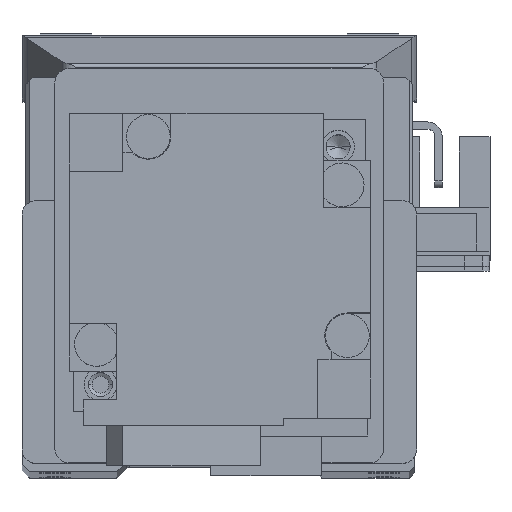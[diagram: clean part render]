
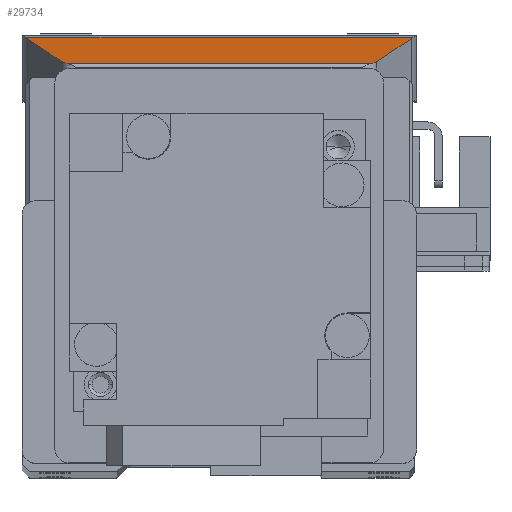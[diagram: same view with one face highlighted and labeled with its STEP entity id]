
A CAD part, top view. The second image highlights one B-rep face of the part: STEP entity #29734.
In plain terms, the highlighted planar face has unit normal (0, 0.966, 0.258).
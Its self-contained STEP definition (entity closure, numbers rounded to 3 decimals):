
#1167 = AXIS2_PLACEMENT_3D ( 'NONE', #23467, #18293, #12698 ) ;
#1318 =( BOUNDED_CURVE ( )  B_SPLINE_CURVE ( 3, ( #14234, #31327, #34267, #20086 ),
 .UNSPECIFIED., .F., .F. ) 
 B_SPLINE_CURVE_WITH_KNOTS ( ( 4, 4 ),
 ( 1.896, 1.951 ),
 .UNSPECIFIED. ) 
 CURVE ( )  GEOMETRIC_REPRESENTATION_ITEM ( )  RATIONAL_B_SPLINE_CURVE ( ( 1., 1., 1., 1. ) ) 
 REPRESENTATION_ITEM ( '' )  );
#1360 = EDGE_LOOP ( 'NONE', ( #5862, #13045, #23523, #15286, #36384, #8141, #10954, #34881 ) ) ;
#1645 = VECTOR ( 'NONE', #2784, 1000. ) ;
#2219 = VERTEX_POINT ( 'NONE', #22549 ) ;
#2784 = DIRECTION ( 'NONE',  ( -1., 0., 0. ) ) ;
#4014 = EDGE_CURVE ( 'NONE', #15419, #26471, #14626, .T. ) ;
#4704 = LINE ( 'NONE', #28274, #1645 ) ;
#5862 = ORIENTED_EDGE ( 'NONE', *, *, #30218, .T. ) ;
#6773 = VERTEX_POINT ( 'NONE', #14344 ) ;
#7408 = CARTESIAN_POINT ( 'NONE',  ( -20.806, 46.299, 57.629 ) ) ;
#7662 = EDGE_CURVE ( 'NONE', #16746, #2219, #17090, .T. ) ;
#8141 = ORIENTED_EDGE ( 'NONE', *, *, #7662, .T. ) ;
#10157 = CARTESIAN_POINT ( 'NONE',  ( -21.121, 46.359, 57.405 ) ) ;
#10439 = EDGE_CURVE ( 'NONE', #16293, #6773, #4704, .T. ) ;
#10954 = ORIENTED_EDGE ( 'NONE', *, *, #19034, .F. ) ;
#11048 = CARTESIAN_POINT ( 'NONE',  ( 26.477, 49.862, 44.266 ) ) ;
#11955 = PLANE ( 'NONE',  #1167 ) ;
#12419 = CARTESIAN_POINT ( 'NONE',  ( 20.806, 46.299, 57.629 ) ) ;
#12698 = DIRECTION ( 'NONE',  ( 0., 0.258, -0.966 ) ) ;
#13045 = ORIENTED_EDGE ( 'NONE', *, *, #30026, .T. ) ;
#13738 = DIRECTION ( 'NONE',  ( 0.361, -0.24, 0.901 ) ) ;
#14234 = CARTESIAN_POINT ( 'NONE',  ( -26.477, 49.862, 44.266 ) ) ;
#14344 = CARTESIAN_POINT ( 'NONE',  ( -26.477, 49.862, 44.266 ) ) ;
#14401 = CARTESIAN_POINT ( 'NONE',  ( 21.909, 46.806, 55.728 ) ) ;
#14626 =( BOUNDED_CURVE ( )  B_SPLINE_CURVE ( 3, ( #19864, #36882, #16732, #23024 ),
 .UNSPECIFIED., .F., .F. ) 
 B_SPLINE_CURVE_WITH_KNOTS ( ( 4, 4 ),
 ( 3.761, 4.332 ),
 .UNSPECIFIED. ) 
 CURVE ( )  GEOMETRIC_REPRESENTATION_ITEM ( )  RATIONAL_B_SPLINE_CURVE ( ( 1., 0.973, 0.973, 1. ) ) 
 REPRESENTATION_ITEM ( '' )  );
#15286 = ORIENTED_EDGE ( 'NONE', *, *, #23031, .T. ) ;
#15419 = VERTEX_POINT ( 'NONE', #12419 ) ;
#15424 = FACE_OUTER_BOUND ( 'NONE', #1360, .T. ) ;
#16293 = VERTEX_POINT ( 'NONE', #28356 ) ;
#16534 = CARTESIAN_POINT ( 'NONE',  ( 26.354, 49.769, 44.616 ) ) ;
#16648 = CARTESIAN_POINT ( 'NONE',  ( 26.418, 49.815, 44.442 ) ) ;
#16732 = CARTESIAN_POINT ( 'NONE',  ( 21.36, 46.44, 57.101 ) ) ;
#16746 = VERTEX_POINT ( 'NONE', #27833 ) ;
#17090 =( BOUNDED_CURVE ( )  B_SPLINE_CURVE ( 3, ( #27290, #18392, #10157, #7408 ),
 .UNSPECIFIED., .F., .F. ) 
 B_SPLINE_CURVE_WITH_KNOTS ( ( 4, 4 ),
 ( 1.951, 2.523 ),
 .UNSPECIFIED. ) 
 CURVE ( )  GEOMETRIC_REPRESENTATION_ITEM ( )  RATIONAL_B_SPLINE_CURVE ( ( 1., 0.973, 0.973, 1. ) ) 
 REPRESENTATION_ITEM ( '' )  );
#18241 = CARTESIAN_POINT ( 'NONE',  ( -26.285, 49.723, 44.788 ) ) ;
#18293 = DIRECTION ( 'NONE',  ( 0., -0.966, -0.258 ) ) ;
#18392 = CARTESIAN_POINT ( 'NONE',  ( -21.36, 46.44, 57.101 ) ) ;
#19034 = EDGE_CURVE ( 'NONE', #15419, #2219, #36178, .T. ) ;
#19864 = CARTESIAN_POINT ( 'NONE',  ( 20.806, 46.299, 57.629 ) ) ;
#19935 = CARTESIAN_POINT ( 'NONE',  ( 27., 46.299, 57.629 ) ) ;
#20086 = CARTESIAN_POINT ( 'NONE',  ( -26.285, 49.723, 44.788 ) ) ;
#21803 = CARTESIAN_POINT ( 'NONE',  ( 21.503, 46.535, 56.743 ) ) ;
#22065 = VECTOR ( 'NONE', #22818, 1000. ) ;
#22480 = CARTESIAN_POINT ( 'NONE',  ( -14.891, 42.127, 73.273 ) ) ;
#22549 = CARTESIAN_POINT ( 'NONE',  ( -20.806, 46.299, 57.629 ) ) ;
#22818 = DIRECTION ( 'NONE',  ( 0.361, 0.24, -0.901 ) ) ;
#23024 = CARTESIAN_POINT ( 'NONE',  ( 21.503, 46.535, 56.743 ) ) ;
#23026 =( BOUNDED_CURVE ( )  B_SPLINE_CURVE ( 3, ( #33379, #16534, #16648, #11048 ),
 .UNSPECIFIED., .F., .F. ) 
 B_SPLINE_CURVE_WITH_KNOTS ( ( 4, 4 ),
 ( 4.332, 4.388 ),
 .UNSPECIFIED. ) 
 CURVE ( )  GEOMETRIC_REPRESENTATION_ITEM ( )  RATIONAL_B_SPLINE_CURVE ( ( 1., 1., 1., 1. ) ) 
 REPRESENTATION_ITEM ( '' )  );
#23031 = EDGE_CURVE ( 'NONE', #6773, #26936, #1318, .T. ) ;
#23467 = CARTESIAN_POINT ( 'NONE',  ( 27., 46.299, 57.629 ) ) ;
#23523 = ORIENTED_EDGE ( 'NONE', *, *, #10439, .T. ) ;
#23738 = LINE ( 'NONE', #22480, #33492 ) ;
#25722 = DIRECTION ( 'NONE',  ( -1., 0., 0. ) ) ;
#26471 = VERTEX_POINT ( 'NONE', #21803 ) ;
#26936 = VERTEX_POINT ( 'NONE', #18241 ) ;
#27290 = CARTESIAN_POINT ( 'NONE',  ( -21.503, 46.535, 56.743 ) ) ;
#27833 = CARTESIAN_POINT ( 'NONE',  ( -21.503, 46.535, 56.743 ) ) ;
#28274 = CARTESIAN_POINT ( 'NONE',  ( 27., 49.862, 44.266 ) ) ;
#28356 = CARTESIAN_POINT ( 'NONE',  ( 26.477, 49.862, 44.266 ) ) ;
#28771 = LINE ( 'NONE', #14401, #22065 ) ;
#29734 = ADVANCED_FACE ( 'NONE', ( #15424 ), #11955, .F. ) ;
#30026 = EDGE_CURVE ( 'NONE', #32984, #16293, #23026, .T. ) ;
#30218 = EDGE_CURVE ( 'NONE', #26471, #32984, #28771, .T. ) ;
#31152 = EDGE_CURVE ( 'NONE', #26936, #16746, #23738, .T. ) ;
#31327 = CARTESIAN_POINT ( 'NONE',  ( -26.418, 49.815, 44.442 ) ) ;
#32984 = VERTEX_POINT ( 'NONE', #36654 ) ;
#33379 = CARTESIAN_POINT ( 'NONE',  ( 26.285, 49.723, 44.788 ) ) ;
#33492 = VECTOR ( 'NONE', #13738, 1000. ) ;
#34267 = CARTESIAN_POINT ( 'NONE',  ( -26.354, 49.769, 44.616 ) ) ;
#34881 = ORIENTED_EDGE ( 'NONE', *, *, #4014, .T. ) ;
#35307 = VECTOR ( 'NONE', #25722, 1000. ) ;
#36178 = LINE ( 'NONE', #19935, #35307 ) ;
#36384 = ORIENTED_EDGE ( 'NONE', *, *, #31152, .T. ) ;
#36654 = CARTESIAN_POINT ( 'NONE',  ( 26.285, 49.723, 44.788 ) ) ;
#36882 = CARTESIAN_POINT ( 'NONE',  ( 21.121, 46.359, 57.405 ) ) ;
